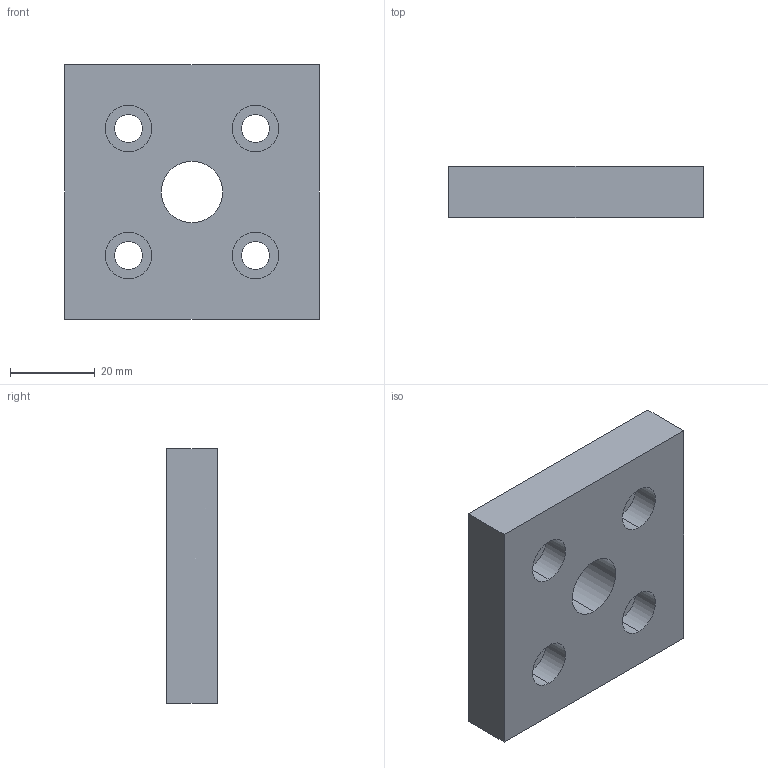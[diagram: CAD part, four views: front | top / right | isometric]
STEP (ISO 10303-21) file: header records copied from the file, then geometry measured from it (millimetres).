
FILE_DESCRIPTION (( 'STEP AP214' ), '1' );
FILE_NAME ('J3B66D.step', '2017-05-24T07:38:11', ( 'admin' ), ( '' ), 'SwSTEP 2.0', 'SolidWorks 2014', '' );
FILE_SCHEMA (( 'AUTOMOTIVE_DESIGN' ));
Length unit declared in the file: millimetre
Products named in the file (1): J3B66D
Bounding box: 60 x 12 x 60 mm (x, y, z)
Volume: 37994.9 mm3; surface area: 11377.3 mm2
Topology: 1 solids, 1 shells, 28 faces, 66 edges, 44 vertices
Faces by surface type: cylinder 18, plane 10
Entity records: 902 total; most frequent: DIRECTION 160, CARTESIAN_POINT 139, ORIENTED_EDGE 132, EDGE_CURVE 66, AXIS2_PLACEMENT_3D 65, VERTEX_POINT 44, EDGE_LOOP 42, CIRCLE 36
